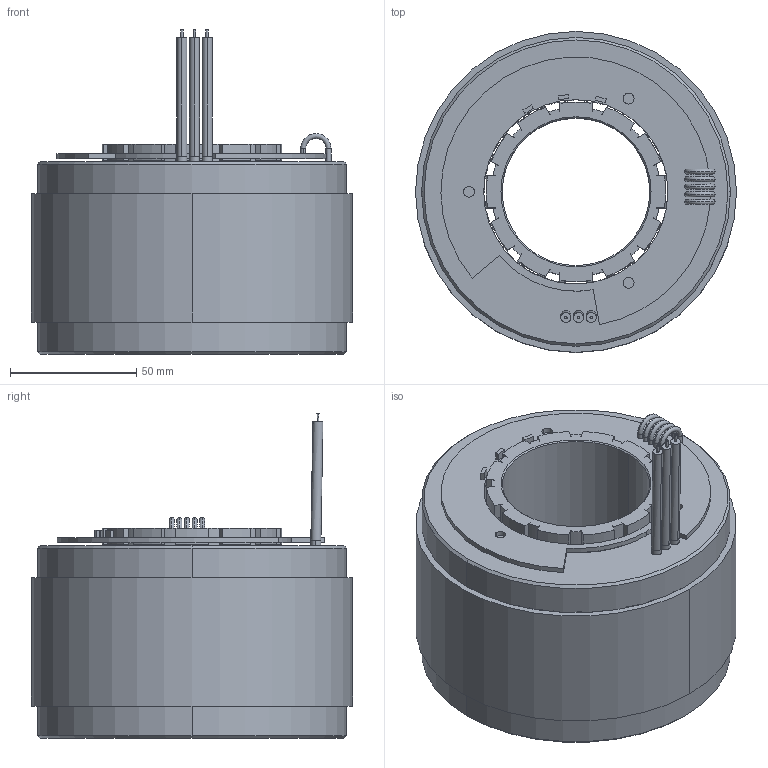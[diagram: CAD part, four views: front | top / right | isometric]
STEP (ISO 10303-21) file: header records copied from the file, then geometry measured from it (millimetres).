
FILE_DESCRIPTION((''),'2;1');
FILE_NAME('K127200-XX2','2015-04-29T',('ALA4428'),(''),'PRO/ENGINEER BY PARAMETRIC TECHNOLOGY CORPORATION, 2007390','PRO/ENGINEER BY PARAMETRIC TECHNOLOGY CORPORATION, 2007390','');
FILE_SCHEMA(('CONFIG_CONTROL_DESIGN'));
Length unit declared in the file: inch
Products named in the file (1): K127200-XX2
Bounding box: 127 x 127 x 128.29 mm (x, y, z)
Volume: 454615.5 mm3; surface area: 226084 mm2
Topology: 2 solids, 2 shells, 954 faces, 2607 edges, 1671 vertices
Faces by surface type: plane 541, cylinder 385, torus 16, cone 12
Entity records: 30436 total; most frequent: CARTESIAN_POINT 5441, DIRECTION 5429, ORIENTED_EDGE 5214, EDGE_CURVE 2607, AXIS2_PLACEMENT_3D 1912, VERTEX_POINT 1671, VECTOR 1605, LINE 1605
